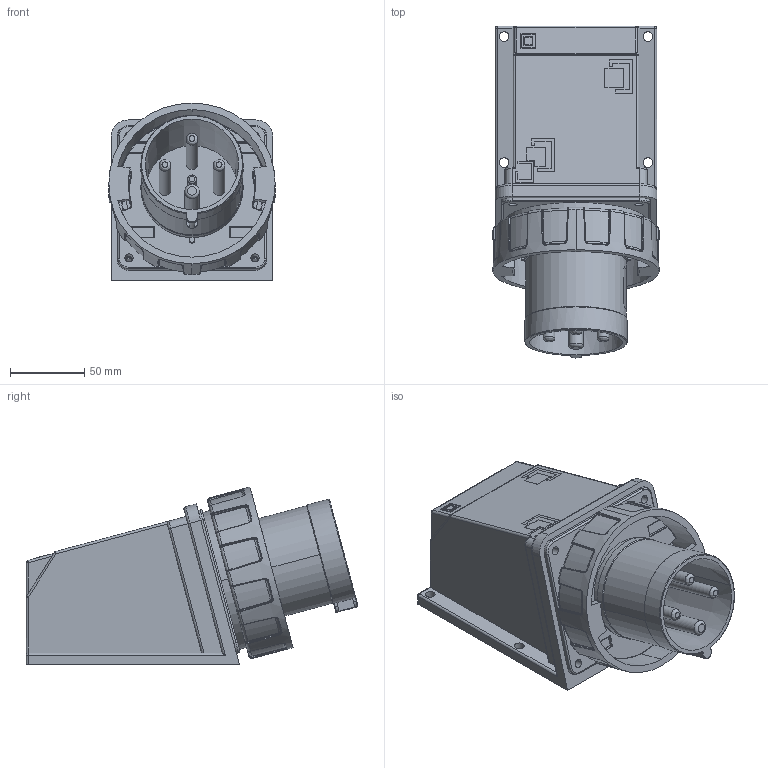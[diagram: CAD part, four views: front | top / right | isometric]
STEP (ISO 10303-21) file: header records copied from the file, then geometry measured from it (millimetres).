
FILE_DESCRIPTION(('FreeCAD Model'),'2;1');
FILE_NAME('Open CASCADE Shape Model','2026-02-04T11:10:50',(''),(''), 'Open CASCADE STEP processor 7.8','FreeCAD','Unknown');
FILE_SCHEMA(('AUTOMOTIVE_DESIGN { 1 0 10303 214 1 1 1 1 }'));
Length unit declared in the file: millimetre
Products named in the file (13): TL3M63643; Proteção terminais; Base externa; Terminais; Tomada; Pino L3; Pino Terra; Pino L2; Pino L1; Pino guia; Base interna; Encaixe tomada; Estrutura corpo
Assembly tree (12 placements, depth 2):
  TL3M63643
    Proteção terminais
    Base externa
    Terminais
    Tomada
    Pino L3
    Pino Terra
    Pino L2
    Pino L1
    Pino guia
    Base interna
    Encaixe tomada
    Estrutura corpo
Bounding box: 112.2 x 223.93 x 120.02 mm (x, y, z)
Volume: 592992.3 mm3; surface area: 263364.1 mm2
Topology: 12 solids, 12 shells, 1571 faces, 4124 edges, 2629 vertices
Faces by surface type: plane 784, cylinder 357, bspline 269, torus 91, cone 52, sphere 16, extrusion 2
Full cylindrical faces by diameter (mm): 5.5 x4, 6 x1, 6.5 x4, 8 x3, 10 x1, 14.5 x1, 40.5 x1, 74 x1, 78 x1, 89 x1
Entity records: 83997 total; most frequent: CARTESIAN_POINT 47403, ORIENTED_EDGE 8200, DIRECTION 6508, EDGE_CURVE 4100, VERTEX_POINT 2629, AXIS2_PLACEMENT_3D 2201, VECTOR 2106, LINE 2104
